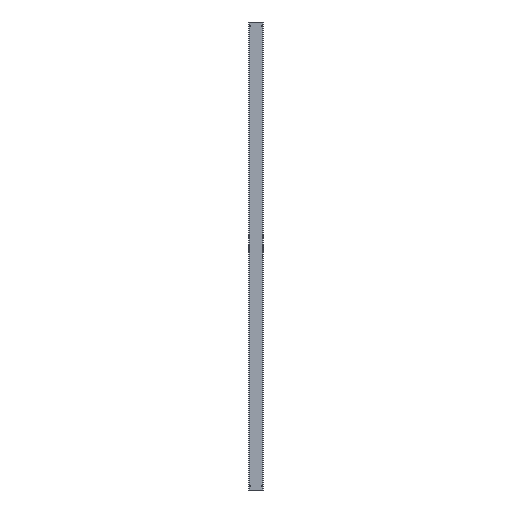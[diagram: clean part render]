
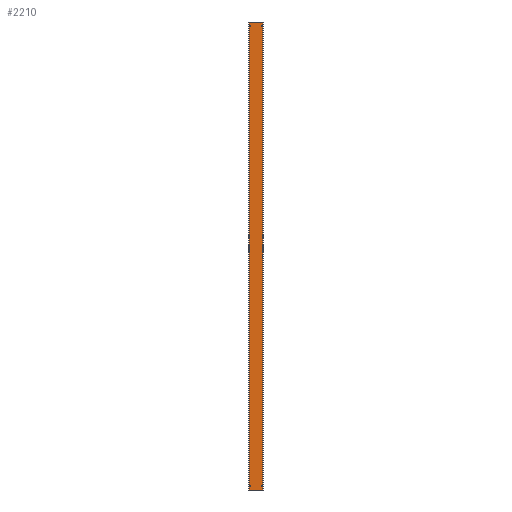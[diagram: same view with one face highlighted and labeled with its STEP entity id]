
A CAD part, left-side view. The second image highlights one B-rep face of the part: STEP entity #2210.
In plain terms, the highlighted planar face has unit normal (-1, 0, 0) as drawn and (1, 0, 0) by its records, which use the part's own axes.
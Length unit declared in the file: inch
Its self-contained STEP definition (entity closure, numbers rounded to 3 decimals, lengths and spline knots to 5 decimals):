
#1450=DIRECTION('',(0.,-1.,0.));
#1451=VECTOR('',#1450,6.996);
#1452=CARTESIAN_POINT('',(0.135,5.988,0.));
#1453=LINE('',#1452,#1451);
#1571=DIRECTION('',(0.,0.,1.));
#1572=VECTOR('',#1571,240.);
#1573=CARTESIAN_POINT('',(0.135,5.988,-240.));
#1574=LINE('',#1573,#1572);
#1575=DIRECTION('',(0.,0.,1.));
#1576=VECTOR('',#1575,240.);
#1577=CARTESIAN_POINT('',(0.135,-1.008,-240.));
#1578=LINE('',#1577,#1576);
#1579=DIRECTION('',(0.,-1.,0.));
#1580=VECTOR('',#1579,0.41);
#1581=CARTESIAN_POINT('',(0.135,5.611,-1.725));
#1582=LINE('',#1581,#1580);
#1583=DIRECTION('',(0.,0.,-1.));
#1584=VECTOR('',#1583,0.47);
#1585=CARTESIAN_POINT('',(0.135,5.201,-1.725));
#1586=LINE('',#1585,#1584);
#1587=DIRECTION('',(0.,1.,0.));
#1588=VECTOR('',#1587,0.41);
#1589=CARTESIAN_POINT('',(0.135,5.201,-2.195));
#1590=LINE('',#1589,#1588);
#1591=DIRECTION('',(0.,0.,1.));
#1592=VECTOR('',#1591,0.47);
#1593=CARTESIAN_POINT('',(0.135,5.611,-2.195));
#1594=LINE('',#1593,#1592);
#1595=DIRECTION('',(0.,-1.,0.));
#1596=VECTOR('',#1595,0.41);
#1597=CARTESIAN_POINT('',(0.135,-0.224,-1.725));
#1598=LINE('',#1597,#1596);
#1599=DIRECTION('',(0.,0.,-1.));
#1600=VECTOR('',#1599,0.47);
#1601=CARTESIAN_POINT('',(0.135,-0.634,-1.725));
#1602=LINE('',#1601,#1600);
#1603=DIRECTION('',(0.,1.,0.));
#1604=VECTOR('',#1603,0.41);
#1605=CARTESIAN_POINT('',(0.135,-0.634,-2.195));
#1606=LINE('',#1605,#1604);
#1607=DIRECTION('',(0.,0.,1.));
#1608=VECTOR('',#1607,0.47);
#1609=CARTESIAN_POINT('',(0.135,-0.224,-2.195));
#1610=LINE('',#1609,#1608);
#1611=DIRECTION('',(0.,0.,1.));
#1612=VECTOR('',#1611,0.47);
#1613=CARTESIAN_POINT('',(0.135,5.611,-238.275));
#1614=LINE('',#1613,#1612);
#1615=DIRECTION('',(0.,-1.,0.));
#1616=VECTOR('',#1615,0.41);
#1617=CARTESIAN_POINT('',(0.135,5.611,-237.805));
#1618=LINE('',#1617,#1616);
#1619=DIRECTION('',(0.,0.,-1.));
#1620=VECTOR('',#1619,0.47);
#1621=CARTESIAN_POINT('',(0.135,5.201,-237.805));
#1622=LINE('',#1621,#1620);
#1623=DIRECTION('',(0.,1.,0.));
#1624=VECTOR('',#1623,0.41);
#1625=CARTESIAN_POINT('',(0.135,5.201,-238.275));
#1626=LINE('',#1625,#1624);
#1627=DIRECTION('',(0.,0.,1.));
#1628=VECTOR('',#1627,0.47);
#1629=CARTESIAN_POINT('',(0.135,-0.224,-238.275));
#1630=LINE('',#1629,#1628);
#1631=DIRECTION('',(0.,-1.,0.));
#1632=VECTOR('',#1631,0.41);
#1633=CARTESIAN_POINT('',(0.135,-0.224,-237.805));
#1634=LINE('',#1633,#1632);
#1635=DIRECTION('',(0.,0.,-1.));
#1636=VECTOR('',#1635,0.47);
#1637=CARTESIAN_POINT('',(0.135,-0.634,-237.805));
#1638=LINE('',#1637,#1636);
#1639=DIRECTION('',(0.,1.,0.));
#1640=VECTOR('',#1639,0.41);
#1641=CARTESIAN_POINT('',(0.135,-0.634,-238.275));
#1642=LINE('',#1641,#1640);
#1728=DIRECTION('',(0.,-1.,0.));
#1729=VECTOR('',#1728,6.996);
#1730=CARTESIAN_POINT('',(0.135,5.988,-240.));
#1731=LINE('',#1730,#1729);
#1901=CARTESIAN_POINT('',(0.135,-1.008,-240.));
#1902=CARTESIAN_POINT('',(0.135,-1.008,0.));
#1903=VERTEX_POINT('',#1901);
#1904=VERTEX_POINT('',#1902);
#1937=CARTESIAN_POINT('',(0.135,5.988,-240.));
#1938=CARTESIAN_POINT('',(0.135,5.988,0.));
#1939=VERTEX_POINT('',#1937);
#1940=VERTEX_POINT('',#1938);
#1957=CARTESIAN_POINT('',(0.135,5.611,-1.725));
#1958=CARTESIAN_POINT('',(0.135,5.201,-1.725));
#1959=VERTEX_POINT('',#1957);
#1960=VERTEX_POINT('',#1958);
#1961=CARTESIAN_POINT('',(0.135,5.201,-2.195));
#1962=VERTEX_POINT('',#1961);
#1963=CARTESIAN_POINT('',(0.135,5.611,-2.195));
#1964=VERTEX_POINT('',#1963);
#1965=CARTESIAN_POINT('',(0.135,-0.224,-1.725));
#1966=CARTESIAN_POINT('',(0.135,-0.634,-1.725));
#1967=VERTEX_POINT('',#1965);
#1968=VERTEX_POINT('',#1966);
#1969=CARTESIAN_POINT('',(0.135,-0.634,-2.195));
#1970=VERTEX_POINT('',#1969);
#1971=CARTESIAN_POINT('',(0.135,-0.224,-2.195));
#1972=VERTEX_POINT('',#1971);
#1989=CARTESIAN_POINT('',(0.135,5.611,-238.275));
#1990=CARTESIAN_POINT('',(0.135,5.611,-237.805));
#1991=VERTEX_POINT('',#1989);
#1992=VERTEX_POINT('',#1990);
#1993=CARTESIAN_POINT('',(0.135,5.201,-237.805));
#1994=VERTEX_POINT('',#1993);
#1995=CARTESIAN_POINT('',(0.135,5.201,-238.275));
#1996=VERTEX_POINT('',#1995);
#1997=CARTESIAN_POINT('',(0.135,-0.224,-238.275));
#1998=CARTESIAN_POINT('',(0.135,-0.224,-237.805));
#1999=VERTEX_POINT('',#1997);
#2000=VERTEX_POINT('',#1998);
#2001=CARTESIAN_POINT('',(0.135,-0.634,-237.805));
#2002=VERTEX_POINT('',#2001);
#2003=CARTESIAN_POINT('',(0.135,-0.634,-238.275));
#2004=VERTEX_POINT('',#2003);
#2157=CARTESIAN_POINT('',(0.135,-1.155,0.));
#2158=DIRECTION('',(1.,0.,0.));
#2159=DIRECTION('',(0.,1.,0.));
#2160=AXIS2_PLACEMENT_3D('',#2157,#2158,#2159);
#2161=PLANE('',#2160);
#2163=ORIENTED_EDGE('',*,*,#2162,.F.);
#2165=ORIENTED_EDGE('',*,*,#2164,.T.);
#2167=ORIENTED_EDGE('',*,*,#2166,.T.);
#2168=ORIENTED_EDGE('',*,*,#2064,.F.);
#2169=EDGE_LOOP('',(#2163,#2165,#2167,#2168));
#2170=FACE_OUTER_BOUND('',#2169,.F.);
#2172=ORIENTED_EDGE('',*,*,#2171,.T.);
#2174=ORIENTED_EDGE('',*,*,#2173,.T.);
#2176=ORIENTED_EDGE('',*,*,#2175,.T.);
#2178=ORIENTED_EDGE('',*,*,#2177,.T.);
#2179=EDGE_LOOP('',(#2172,#2174,#2176,#2178));
#2180=FACE_BOUND('',#2179,.F.);
#2182=ORIENTED_EDGE('',*,*,#2181,.T.);
#2184=ORIENTED_EDGE('',*,*,#2183,.T.);
#2186=ORIENTED_EDGE('',*,*,#2185,.T.);
#2188=ORIENTED_EDGE('',*,*,#2187,.T.);
#2189=EDGE_LOOP('',(#2182,#2184,#2186,#2188));
#2190=FACE_BOUND('',#2189,.F.);
#2191=ORIENTED_EDGE('',*,*,#2147,.T.);
#2193=ORIENTED_EDGE('',*,*,#2192,.T.);
#2195=ORIENTED_EDGE('',*,*,#2194,.T.);
#2197=ORIENTED_EDGE('',*,*,#2196,.T.);
#2198=EDGE_LOOP('',(#2191,#2193,#2195,#2197));
#2199=FACE_BOUND('',#2198,.F.);
#2201=ORIENTED_EDGE('',*,*,#2200,.T.);
#2203=ORIENTED_EDGE('',*,*,#2202,.T.);
#2205=ORIENTED_EDGE('',*,*,#2204,.T.);
#2207=ORIENTED_EDGE('',*,*,#2206,.T.);
#2208=EDGE_LOOP('',(#2201,#2203,#2205,#2207));
#2209=FACE_BOUND('',#2208,.F.);
#2210=ADVANCED_FACE('',(#2170,#2180,#2190,#2199,#2209),#2161,.T.);
#2064=EDGE_CURVE('',#1940,#1904,#1453,.T.);
#2147=EDGE_CURVE('',#1991,#1992,#1614,.T.);
#2162=EDGE_CURVE('',#1939,#1940,#1574,.T.);
#2164=EDGE_CURVE('',#1939,#1903,#1731,.T.);
#2166=EDGE_CURVE('',#1903,#1904,#1578,.T.);
#2171=EDGE_CURVE('',#1959,#1960,#1582,.T.);
#2173=EDGE_CURVE('',#1960,#1962,#1586,.T.);
#2175=EDGE_CURVE('',#1962,#1964,#1590,.T.);
#2177=EDGE_CURVE('',#1964,#1959,#1594,.T.);
#2181=EDGE_CURVE('',#1967,#1968,#1598,.T.);
#2183=EDGE_CURVE('',#1968,#1970,#1602,.T.);
#2185=EDGE_CURVE('',#1970,#1972,#1606,.T.);
#2187=EDGE_CURVE('',#1972,#1967,#1610,.T.);
#2192=EDGE_CURVE('',#1992,#1994,#1618,.T.);
#2194=EDGE_CURVE('',#1994,#1996,#1622,.T.);
#2196=EDGE_CURVE('',#1996,#1991,#1626,.T.);
#2200=EDGE_CURVE('',#1999,#2000,#1630,.T.);
#2202=EDGE_CURVE('',#2000,#2002,#1634,.T.);
#2204=EDGE_CURVE('',#2002,#2004,#1638,.T.);
#2206=EDGE_CURVE('',#2004,#1999,#1642,.T.);
